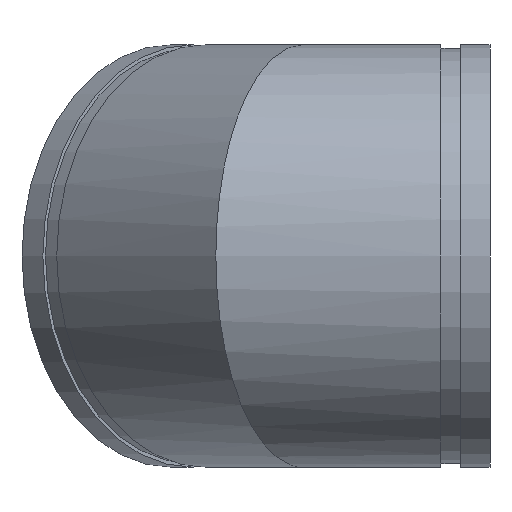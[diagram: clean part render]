
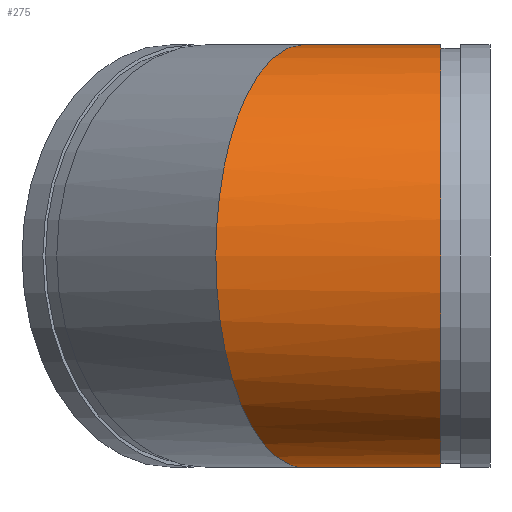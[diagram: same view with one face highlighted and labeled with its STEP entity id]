
A CAD part, left-side view. The second image highlights one B-rep face of the part: STEP entity #275.
In plain terms, the highlighted cylindrical face has radius 136.525 mm (diameter 273.05 mm), a full revolution.
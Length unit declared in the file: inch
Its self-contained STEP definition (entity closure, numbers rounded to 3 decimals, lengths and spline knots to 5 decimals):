
#48=ELLIPSE('',#329,5.81786,5.375);
#49=ELLIPSE('',#330,5.81786,5.375);
#50=ELLIPSE('',#331,5.81786,5.375);
#73=FACE_OUTER_BOUND('',#91,.T.);
#91=EDGE_LOOP('',(#225,#226,#227,#228,#229,#230));
#103=LINE('',#513,#111);
#111=VECTOR('',#416,5.375);
#117=CIRCLE('',#305,5.375);
#133=VERTEX_POINT('',#468);
#148=VERTEX_POINT('',#512);
#149=VERTEX_POINT('',#514);
#150=VERTEX_POINT('',#516);
#156=EDGE_CURVE('',#133,#133,#117,.T.);
#176=EDGE_CURVE('',#133,#148,#103,.T.);
#177=EDGE_CURVE('',#148,#149,#48,.T.);
#178=EDGE_CURVE('',#150,#149,#49,.T.);
#179=EDGE_CURVE('',#150,#148,#50,.T.);
#225=ORIENTED_EDGE('',*,*,#156,.T.);
#226=ORIENTED_EDGE('',*,*,#176,.T.);
#227=ORIENTED_EDGE('',*,*,#177,.T.);
#228=ORIENTED_EDGE('',*,*,#178,.F.);
#229=ORIENTED_EDGE('',*,*,#179,.T.);
#230=ORIENTED_EDGE('',*,*,#176,.F.);
#247=CYLINDRICAL_SURFACE('',#328,5.375);
#275=ADVANCED_FACE('',(#73),#247,.T.);
#305=AXIS2_PLACEMENT_3D('',#469,#363,#364);
#328=AXIS2_PLACEMENT_3D('',#511,#414,#415);
#329=AXIS2_PLACEMENT_3D('',#515,#417,#418);
#330=AXIS2_PLACEMENT_3D('',#517,#419,#420);
#331=AXIS2_PLACEMENT_3D('',#518,#421,#422);
#363=DIRECTION('center_axis',(0.,1.,0.));
#364=DIRECTION('ref_axis',(1.,0.,0.));
#414=DIRECTION('center_axis',(0.,-1.,0.));
#415=DIRECTION('ref_axis',(1.,0.,0.));
#416=DIRECTION('',(0.,1.,0.));
#417=DIRECTION('center_axis',(-0.383,-0.924,0.));
#418=DIRECTION('ref_axis',(0.924,-0.383,0.));
#419=DIRECTION('center_axis',(0.383,0.924,0.));
#420=DIRECTION('ref_axis',(0.924,-0.383,0.));
#421=DIRECTION('center_axis',(-0.383,-0.924,0.));
#422=DIRECTION('ref_axis',(0.924,-0.383,0.));
#468=CARTESIAN_POINT('',(-5.375,-3.5,0.));
#469=CARTESIAN_POINT('Origin',(0.,-3.5,0.));
#511=CARTESIAN_POINT('Origin',(0.,0.,0.));
#512=CARTESIAN_POINT('',(-5.375,2.2264,0.));
#513=CARTESIAN_POINT('',(-5.375,0.,0.));
#514=CARTESIAN_POINT('',(0.,0.,-5.375));
#515=CARTESIAN_POINT('Origin',(0.,0.,0.));
#516=CARTESIAN_POINT('',(0.,0.,5.375));
#517=CARTESIAN_POINT('Origin',(0.,0.,0.));
#518=CARTESIAN_POINT('Origin',(0.,0.,0.));
